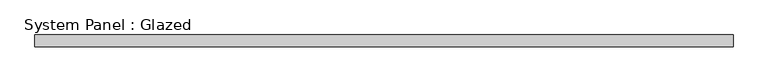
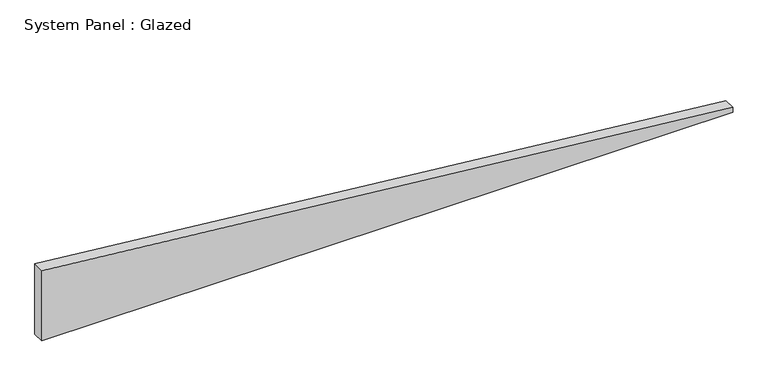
"""IFC4 building model written with IfcOpenShell, lengths in millimetres: plate geometry, System Panel : Glazed."""

from ifc_helpers import new_model, si_unit, frame, origin, place, context, project, spatial, polyline, outline, extrude, source, transform, mapped, element, save


def system_panel_glazed_57744b85(model_context):
    return source(origin(), model_context, "Body", "SweptSolid", [
        extrude(outline(polyline([(0.0, -735.8695652), (0.0, 735.8695652), (10.3767427, 735.8695652), (158.3597214, -735.8695652), (0.0, -735.8695652)])), frame((0.0, 24.5, 0.0), z_axis=(0.0, 1.0, 0.0), x_axis=(0.0, 0.0, 1.0)), (0.0, 0.0, 1.0), 25.0),
    ])


if __name__ == "__main__":
    model = new_model("IFC4")
    model_context = context("Model", 3, world=origin())
    ifc_project = project(units=[si_unit("LENGTHUNIT", "METRE", prefix="MILLI")], contexts=[model_context])
    site = spatial("IfcSite", under=ifc_project)
    building = spatial("IfcBuilding", under=site)
    placement = place(None, origin())
    system_panel_glazed_shape = system_panel_glazed_57744b85(model_context)
    element("IfcPlate", 1, ObjectType="System Panel : Glazed", at=placement, inside=building, context=model_context, shape_type="MappedRepresentation", body=[
        mapped(system_panel_glazed_shape, transform((0.0, 0.0, 0.0), x_axis=(1.0, 0.0, 0.0), y_axis=(0.0, 1.0, 0.0), z_axis=(0.0, 0.0, 1.0))),
    ])
    save(model, "model.ifc")
